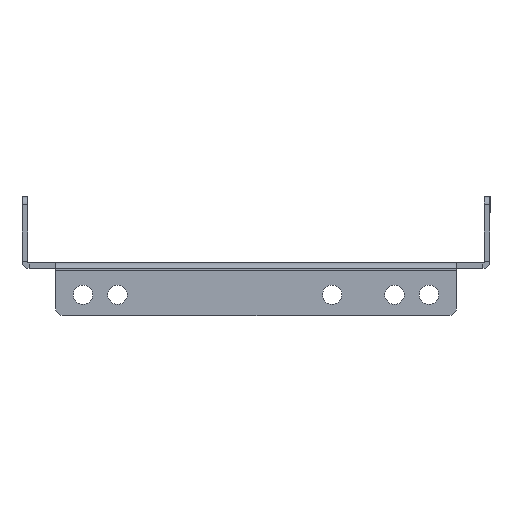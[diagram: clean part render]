
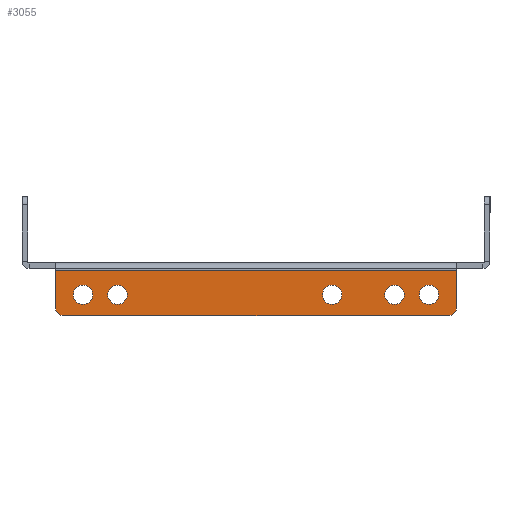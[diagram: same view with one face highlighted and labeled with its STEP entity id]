
A CAD part, left-side view. The second image highlights one B-rep face of the part: STEP entity #3055.
In plain terms, the highlighted planar face has unit normal (-1, 0, 0).
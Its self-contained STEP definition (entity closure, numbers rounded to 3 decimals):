
#51 = CARTESIAN_POINT ( 'NONE',  ( -450., 72.5, -0.6 ) ) ;
#66 = DIRECTION ( 'NONE',  ( 0., 0., 1. ) ) ;
#70 = ORIENTED_EDGE ( 'NONE', *, *, #2829, .F. ) ;
#104 = DIRECTION ( 'NONE',  ( 0., 0., 1. ) ) ;
#109 = CARTESIAN_POINT ( 'NONE',  ( -450., -50., -9.5 ) ) ;
#114 = EDGE_LOOP ( 'NONE', ( #70, #3847 ) ) ;
#130 = EDGE_LOOP ( 'NONE', ( #4188, #1455 ) ) ;
#148 = VECTOR ( 'NONE', #4058, 1000. ) ;
#207 = VERTEX_POINT ( 'NONE', #613 ) ;
#254 = CARTESIAN_POINT ( 'NONE',  ( -450., -27.5, -13. ) ) ;
#274 = AXIS2_PLACEMENT_3D ( 'NONE', #2215, #2080, #3511 ) ;
#280 = CIRCLE ( 'NONE', #2729, 3.5 ) ;
#361 = EDGE_CURVE ( 'NONE', #1128, #2624, #4067, .T. ) ;
#407 = DIRECTION ( 'NONE',  ( 0., 0., -1. ) ) ;
#411 = VERTEX_POINT ( 'NONE', #1452 ) ;
#459 = PLANE ( 'NONE',  #3819 ) ;
#554 = CARTESIAN_POINT ( 'NONE',  ( -450., 50., -6. ) ) ;
#564 = CARTESIAN_POINT ( 'NONE',  ( -450., 72.5, -14. ) ) ;
#569 = DIRECTION ( 'NONE',  ( 0., 0., 1. ) ) ;
#613 = CARTESIAN_POINT ( 'NONE',  ( -450., -72.5, -14. ) ) ;
#683 = EDGE_CURVE ( 'NONE', #3596, #207, #1207, .T. ) ;
#689 = DIRECTION ( 'NONE',  ( -1., 0., 0. ) ) ;
#690 = VERTEX_POINT ( 'NONE', #3462 ) ;
#704 = FACE_BOUND ( 'NONE', #114, .T. ) ;
#731 = DIRECTION ( 'NONE',  ( 1., 0., 0. ) ) ;
#736 = ORIENTED_EDGE ( 'NONE', *, *, #3965, .T. ) ;
#854 = VECTOR ( 'NONE', #873, 1000. ) ;
#873 = DIRECTION ( 'NONE',  ( 0., 1., 0. ) ) ;
#906 = DIRECTION ( 'NONE',  ( -1., 0., 0. ) ) ;
#988 = EDGE_CURVE ( 'NONE', #3148, #1987, #2839, .T. ) ;
#1031 = CARTESIAN_POINT ( 'NONE',  ( -450., -27.5, -9.5 ) ) ;
#1110 = DIRECTION ( 'NONE',  ( 0., 1., 0. ) ) ;
#1128 = VERTEX_POINT ( 'NONE', #4330 ) ;
#1178 = CARTESIAN_POINT ( 'NONE',  ( -450., -69.5, -17. ) ) ;
#1207 = CIRCLE ( 'NONE', #2697, 3. ) ;
#1232 = CARTESIAN_POINT ( 'NONE',  ( -450., 72.5, -0.6 ) ) ;
#1261 = DIRECTION ( 'NONE',  ( -1., 0., 0. ) ) ;
#1314 = CARTESIAN_POINT ( 'NONE',  ( -450., 50., -13. ) ) ;
#1385 = DIRECTION ( 'NONE',  ( 0., 0., 1. ) ) ;
#1427 = FACE_BOUND ( 'NONE', #2268, .T. ) ;
#1429 = DIRECTION ( 'NONE',  ( 0., 0., -1. ) ) ;
#1444 = ORIENTED_EDGE ( 'NONE', *, *, #4156, .T. ) ;
#1452 = CARTESIAN_POINT ( 'NONE',  ( -450., -62.5, -13. ) ) ;
#1455 = ORIENTED_EDGE ( 'NONE', *, *, #2566, .F. ) ;
#1490 = ORIENTED_EDGE ( 'NONE', *, *, #1983, .F. ) ;
#1596 = VERTEX_POINT ( 'NONE', #554 ) ;
#1600 = EDGE_CURVE ( 'NONE', #3596, #3926, #4339, .T. ) ;
#1632 = CIRCLE ( 'NONE', #3730, 3.5 ) ;
#1648 = AXIS2_PLACEMENT_3D ( 'NONE', #2414, #689, #3799 ) ;
#1739 = LINE ( 'NONE', #51, #4031 ) ;
#1742 = CARTESIAN_POINT ( 'NONE',  ( -450., -62.5, -6. ) ) ;
#1770 = DIRECTION ( 'NONE',  ( -1., 0., 0. ) ) ;
#1778 = DIRECTION ( 'NONE',  ( -1., 0., 0. ) ) ;
#1792 = AXIS2_PLACEMENT_3D ( 'NONE', #2575, #3900, #3245 ) ;
#1850 = CARTESIAN_POINT ( 'NONE',  ( -450., -72.5, -0.6 ) ) ;
#1872 = CARTESIAN_POINT ( 'NONE',  ( -450., -62.5, -9.5 ) ) ;
#1904 = DIRECTION ( 'NONE',  ( 0., 0., 1. ) ) ;
#1928 = CARTESIAN_POINT ( 'NONE',  ( -450., 62.5, -9.5 ) ) ;
#1934 = VERTEX_POINT ( 'NONE', #2635 ) ;
#1978 = AXIS2_PLACEMENT_3D ( 'NONE', #3704, #3052, #3363 ) ;
#1983 = EDGE_CURVE ( 'NONE', #1596, #4476, #4179, .T. ) ;
#1987 = VERTEX_POINT ( 'NONE', #1232 ) ;
#2011 = ORIENTED_EDGE ( 'NONE', *, *, #988, .F. ) ;
#2020 = EDGE_CURVE ( 'NONE', #1934, #3951, #1632, .T. ) ;
#2080 = DIRECTION ( 'NONE',  ( -1., 0., 0. ) ) ;
#2090 = CARTESIAN_POINT ( 'NONE',  ( -450., 72.5, 0. ) ) ;
#2129 = ORIENTED_EDGE ( 'NONE', *, *, #683, .T. ) ;
#2141 = CARTESIAN_POINT ( 'NONE',  ( -450., -69.5, -14. ) ) ;
#2185 = CARTESIAN_POINT ( 'NONE',  ( -450., -62.5, -9.5 ) ) ;
#2215 = CARTESIAN_POINT ( 'NONE',  ( -450., 50., -9.5 ) ) ;
#2216 = CIRCLE ( 'NONE', #3016, 3.5 ) ;
#2268 = EDGE_LOOP ( 'NONE', ( #4148, #3127 ) ) ;
#2340 = AXIS2_PLACEMENT_3D ( 'NONE', #1031, #731, #2460 ) ;
#2405 = AXIS2_PLACEMENT_3D ( 'NONE', #109, #2774, #407 ) ;
#2407 = EDGE_LOOP ( 'NONE', ( #4356, #736 ) ) ;
#2414 = CARTESIAN_POINT ( 'NONE',  ( -450., 62.5, -9.5 ) ) ;
#2432 = DIRECTION ( 'NONE',  ( -1., 0., 0. ) ) ;
#2435 = ORIENTED_EDGE ( 'NONE', *, *, #3844, .T. ) ;
#2459 = FACE_BOUND ( 'NONE', #130, .T. ) ;
#2460 = DIRECTION ( 'NONE',  ( 0., 0., -1. ) ) ;
#2506 = FACE_OUTER_BOUND ( 'NONE', #2918, .T. ) ;
#2526 = CARTESIAN_POINT ( 'NONE',  ( -450., 72.5, 0. ) ) ;
#2566 = EDGE_CURVE ( 'NONE', #411, #3474, #2216, .T. ) ;
#2575 = CARTESIAN_POINT ( 'NONE',  ( -450., -27.5, -9.5 ) ) ;
#2583 = AXIS2_PLACEMENT_3D ( 'NONE', #3025, #3894, #1904 ) ;
#2602 = CARTESIAN_POINT ( 'NONE',  ( -450., -50., -13. ) ) ;
#2624 = VERTEX_POINT ( 'NONE', #2602 ) ;
#2635 = CARTESIAN_POINT ( 'NONE',  ( -450., 62.5, -13. ) ) ;
#2680 = LINE ( 'NONE', #4132, #148 ) ;
#2684 = EDGE_CURVE ( 'NONE', #4476, #1596, #4460, .T. ) ;
#2697 = AXIS2_PLACEMENT_3D ( 'NONE', #2141, #1778, #1385 ) ;
#2729 = AXIS2_PLACEMENT_3D ( 'NONE', #3389, #2432, #2846 ) ;
#2774 = DIRECTION ( 'NONE',  ( -1., 0., 0. ) ) ;
#2794 = EDGE_LOOP ( 'NONE', ( #1490, #3256 ) ) ;
#2812 = ORIENTED_EDGE ( 'NONE', *, *, #1600, .F. ) ;
#2829 = EDGE_CURVE ( 'NONE', #3951, #1934, #3182, .T. ) ;
#2839 = LINE ( 'NONE', #2526, #3002 ) ;
#2846 = DIRECTION ( 'NONE',  ( 0., 0., -1. ) ) ;
#2912 = CIRCLE ( 'NONE', #3483, 3.5 ) ;
#2918 = EDGE_LOOP ( 'NONE', ( #2812, #2129, #2967, #2435, #2011, #1444 ) ) ;
#2967 = ORIENTED_EDGE ( 'NONE', *, *, #4089, .F. ) ;
#3000 = EDGE_CURVE ( 'NONE', #2624, #1128, #280, .T. ) ;
#3002 = VECTOR ( 'NONE', #104, 1000. ) ;
#3016 = AXIS2_PLACEMENT_3D ( 'NONE', #1872, #1261, #3648 ) ;
#3025 = CARTESIAN_POINT ( 'NONE',  ( -450., 50., -9.5 ) ) ;
#3052 = DIRECTION ( 'NONE',  ( -1., 0., 0. ) ) ;
#3055 = ADVANCED_FACE ( 'NONE', ( #3121, #2459, #1427, #3836, #704, #2506 ), #459, .T. ) ;
#3121 = FACE_BOUND ( 'NONE', #2407, .T. ) ;
#3127 = ORIENTED_EDGE ( 'NONE', *, *, #3000, .F. ) ;
#3148 = VERTEX_POINT ( 'NONE', #564 ) ;
#3182 = CIRCLE ( 'NONE', #1648, 3.5 ) ;
#3245 = DIRECTION ( 'NONE',  ( 0., 0., -1. ) ) ;
#3256 = ORIENTED_EDGE ( 'NONE', *, *, #2684, .F. ) ;
#3363 = DIRECTION ( 'NONE',  ( 0., 0., 1. ) ) ;
#3389 = CARTESIAN_POINT ( 'NONE',  ( -450., -50., -9.5 ) ) ;
#3451 = DIRECTION ( 'NONE',  ( -1., 0., 0. ) ) ;
#3462 = CARTESIAN_POINT ( 'NONE',  ( -450., -27.5, -6. ) ) ;
#3474 = VERTEX_POINT ( 'NONE', #1742 ) ;
#3483 = AXIS2_PLACEMENT_3D ( 'NONE', #2185, #1770, #1429 ) ;
#3511 = DIRECTION ( 'NONE',  ( 0., 0., 1. ) ) ;
#3587 = VERTEX_POINT ( 'NONE', #1850 ) ;
#3596 = VERTEX_POINT ( 'NONE', #1178 ) ;
#3648 = DIRECTION ( 'NONE',  ( 0., 0., -1. ) ) ;
#3664 = VERTEX_POINT ( 'NONE', #254 ) ;
#3704 = CARTESIAN_POINT ( 'NONE',  ( -450., 69.5, -14. ) ) ;
#3730 = AXIS2_PLACEMENT_3D ( 'NONE', #1928, #906, #569 ) ;
#3799 = DIRECTION ( 'NONE',  ( 0., 0., 1. ) ) ;
#3819 = AXIS2_PLACEMENT_3D ( 'NONE', #2090, #3451, #66 ) ;
#3836 = FACE_BOUND ( 'NONE', #2794, .T. ) ;
#3844 = EDGE_CURVE ( 'NONE', #3587, #1987, #1739, .T. ) ;
#3847 = ORIENTED_EDGE ( 'NONE', *, *, #2020, .F. ) ;
#3877 = CIRCLE ( 'NONE', #1978, 3. ) ;
#3894 = DIRECTION ( 'NONE',  ( -1., 0., 0. ) ) ;
#3900 = DIRECTION ( 'NONE',  ( 1., 0., 0. ) ) ;
#3926 = VERTEX_POINT ( 'NONE', #4141 ) ;
#3939 = CARTESIAN_POINT ( 'NONE',  ( -450., 62.5, -6. ) ) ;
#3951 = VERTEX_POINT ( 'NONE', #3939 ) ;
#3965 = EDGE_CURVE ( 'NONE', #690, #3664, #4254, .T. ) ;
#4001 = CARTESIAN_POINT ( 'NONE',  ( -450., 72.5, -17. ) ) ;
#4031 = VECTOR ( 'NONE', #1110, 1000. ) ;
#4058 = DIRECTION ( 'NONE',  ( 0., 0., -1. ) ) ;
#4067 = CIRCLE ( 'NONE', #2405, 3.5 ) ;
#4089 = EDGE_CURVE ( 'NONE', #3587, #207, #2680, .T. ) ;
#4132 = CARTESIAN_POINT ( 'NONE',  ( -450., -72.5, -17. ) ) ;
#4141 = CARTESIAN_POINT ( 'NONE',  ( -450., 69.5, -17. ) ) ;
#4148 = ORIENTED_EDGE ( 'NONE', *, *, #361, .F. ) ;
#4156 = EDGE_CURVE ( 'NONE', #3148, #3926, #3877, .T. ) ;
#4178 = EDGE_CURVE ( 'NONE', #3664, #690, #4304, .T. ) ;
#4179 = CIRCLE ( 'NONE', #2583, 3.5 ) ;
#4188 = ORIENTED_EDGE ( 'NONE', *, *, #4242, .F. ) ;
#4242 = EDGE_CURVE ( 'NONE', #3474, #411, #2912, .T. ) ;
#4254 = CIRCLE ( 'NONE', #1792, 3.5 ) ;
#4304 = CIRCLE ( 'NONE', #2340, 3.5 ) ;
#4330 = CARTESIAN_POINT ( 'NONE',  ( -450., -50., -6. ) ) ;
#4339 = LINE ( 'NONE', #4001, #854 ) ;
#4356 = ORIENTED_EDGE ( 'NONE', *, *, #4178, .T. ) ;
#4460 = CIRCLE ( 'NONE', #274, 3.5 ) ;
#4476 = VERTEX_POINT ( 'NONE', #1314 ) ;
